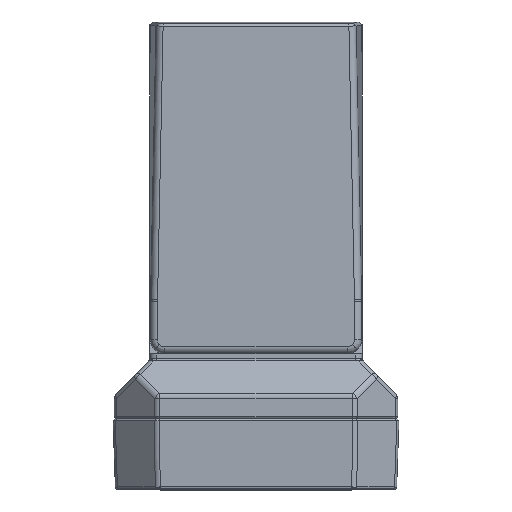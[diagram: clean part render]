
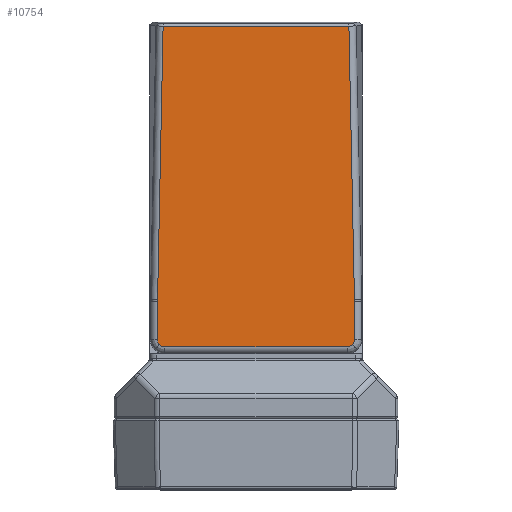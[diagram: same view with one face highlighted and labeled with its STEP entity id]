
A CAD part, top view. The second image highlights one B-rep face of the part: STEP entity #10754.
In plain terms, the highlighted planar face has unit normal (0, 0, 1) as drawn and (0, 1, 0) by its records, which use the part's own axes.
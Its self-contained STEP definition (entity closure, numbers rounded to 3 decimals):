
#44 =( BOUNDED_CURVE ( )  B_SPLINE_CURVE ( 3, ( #14184, #13300, #11010, #2235 ),
 .UNSPECIFIED., .F., .T. ) 
 B_SPLINE_CURVE_WITH_KNOTS ( ( 4, 4 ),
 ( 5.497, 6.283 ),
 .UNSPECIFIED. ) 
 CURVE ( )  GEOMETRIC_REPRESENTATION_ITEM ( )  RATIONAL_B_SPLINE_CURVE ( ( 1., 0.949, 0.949, 1. ) ) 
 REPRESENTATION_ITEM ( '' )  );
#147 = CARTESIAN_POINT ( 'NONE',  ( 34.064, 37.5, 4.055 ) ) ;
#291 = ORIENTED_EDGE ( 'NONE', *, *, #1901, .T. ) ;
#442 = CARTESIAN_POINT ( 'NONE',  ( 37.5, 37.5, -108.47 ) ) ;
#448 = DIRECTION ( 'NONE',  ( 0., -1., 0. ) ) ;
#580 =( BOUNDED_CURVE ( )  B_SPLINE_CURVE ( 3, ( #4434, #13118, #8919, #8848 ),
 .UNSPECIFIED., .F., .T. ) 
 B_SPLINE_CURVE_WITH_KNOTS ( ( 4, 4 ),
 ( 3.133, 3.151 ),
 .UNSPECIFIED. ) 
 CURVE ( )  GEOMETRIC_REPRESENTATION_ITEM ( )  RATIONAL_B_SPLINE_CURVE ( ( 1., 1., 1., 1. ) ) 
 REPRESENTATION_ITEM ( '' )  );
#583 = PLANE ( 'NONE',  #9418 ) ;
#681 = EDGE_LOOP ( 'NONE', ( #10198, #291, #14140, #8324, #2260, #13005, #1005, #4489, #10294, #9167, #11570, #2533 ) ) ;
#706 = VERTEX_POINT ( 'NONE', #12823 ) ;
#1005 = ORIENTED_EDGE ( 'NONE', *, *, #7419, .T. ) ;
#1342 = CARTESIAN_POINT ( 'NONE',  ( 37.5, 37.5, 4.789 ) ) ;
#1595 = CARTESIAN_POINT ( 'NONE',  ( -32.968, 37.5, 4.789 ) ) ;
#1663 = LINE ( 'NONE', #13937, #12121 ) ;
#1888 = VERTEX_POINT ( 'NONE', #7959 ) ;
#1901 = EDGE_CURVE ( 'NONE', #12460, #12274, #4705, .T. ) ;
#1916 = DIRECTION ( 'NONE',  ( -0.02, 0., -1. ) ) ;
#2191 = CARTESIAN_POINT ( 'NONE',  ( -34.064, 37.5, 4.055 ) ) ;
#2235 = CARTESIAN_POINT ( 'NONE',  ( -34.064, 37.5, 4.055 ) ) ;
#2260 = ORIENTED_EDGE ( 'NONE', *, *, #4986, .T. ) ;
#2449 = CARTESIAN_POINT ( 'NONE',  ( 34.795, 37.5, 2.958 ) ) ;
#2533 = ORIENTED_EDGE ( 'NONE', *, *, #5832, .T. ) ;
#2808 = VERTEX_POINT ( 'NONE', #4589 ) ;
#2846 = DIRECTION ( 'NONE',  ( -0.002, 0., -1. ) ) ;
#2898 = VERTEX_POINT ( 'NONE', #2191 ) ;
#3163 = CARTESIAN_POINT ( 'NONE',  ( 32.785, 37.5, -109.434 ) ) ;
#3261 = CARTESIAN_POINT ( 'NONE',  ( 32.295, 37.5, 4.789 ) ) ;
#3307 = CARTESIAN_POINT ( 'NONE',  ( -34.805, 37.5, 7.342 ) ) ;
#3471 = CARTESIAN_POINT ( 'NONE',  ( -34.755, 37.5, -12.016 ) ) ;
#3767 = DIRECTION ( 'NONE',  ( 0., 0., -1. ) ) ;
#3848 = VECTOR ( 'NONE', #13594, 1000. ) ;
#4326 = DIRECTION ( 'NONE',  ( -0.002, 0., 1. ) ) ;
#4434 = CARTESIAN_POINT ( 'NONE',  ( 34.765, 37.5, -11.16 ) ) ;
#4489 = ORIENTED_EDGE ( 'NONE', *, *, #5618, .T. ) ;
#4589 = CARTESIAN_POINT ( 'NONE',  ( 32.295, 37.5, 4.789 ) ) ;
#4700 = CARTESIAN_POINT ( 'NONE',  ( -32.295, 37.5, 4.789 ) ) ;
#4705 = LINE ( 'NONE', #442, #3848 ) ;
#4903 = VECTOR ( 'NONE', #9148, 1000. ) ;
#4986 = EDGE_CURVE ( 'NONE', #5562, #1888, #10036, .T. ) ;
#5030 = CARTESIAN_POINT ( 'NONE',  ( -34.764, 37.5, -11.445 ) ) ;
#5317 = EDGE_CURVE ( 'NONE', #706, #12460, #14146, .T. ) ;
#5430 = CARTESIAN_POINT ( 'NONE',  ( -32.805, 37.5, -108.47 ) ) ;
#5562 = VERTEX_POINT ( 'NONE', #12541 ) ;
#5618 = EDGE_CURVE ( 'NONE', #7461, #2808, #9359, .T. ) ;
#5824 = LINE ( 'NONE', #11461, #7148 ) ;
#5832 = EDGE_CURVE ( 'NONE', #6474, #706, #580, .T. ) ;
#5862 = CARTESIAN_POINT ( 'NONE',  ( 34.794, 37.5, 2.285 ) ) ;
#6372 = EDGE_CURVE ( 'NONE', #12274, #7389, #1663, .T. ) ;
#6474 = VERTEX_POINT ( 'NONE', #9400 ) ;
#6783 = CARTESIAN_POINT ( 'NONE',  ( 34.064, 37.5, 4.055 ) ) ;
#7148 = VECTOR ( 'NONE', #2846, 1000. ) ;
#7181 = CARTESIAN_POINT ( 'NONE',  ( -34.755, 37.5, -12.016 ) ) ;
#7389 = VERTEX_POINT ( 'NONE', #3471 ) ;
#7419 = EDGE_CURVE ( 'NONE', #2898, #7461, #8152, .T. ) ;
#7461 = VERTEX_POINT ( 'NONE', #8250 ) ;
#7600 = VECTOR ( 'NONE', #4326, 1000. ) ;
#7728 = CARTESIAN_POINT ( 'NONE',  ( 32.968, 37.5, 4.789 ) ) ;
#7902 = EDGE_CURVE ( 'NONE', #9351, #8942, #12495, .T. ) ;
#7959 = CARTESIAN_POINT ( 'NONE',  ( -34.794, 37.5, 2.285 ) ) ;
#8037 = CARTESIAN_POINT ( 'NONE',  ( -34.064, 37.5, 4.055 ) ) ;
#8152 =( BOUNDED_CURVE ( )  B_SPLINE_CURVE ( 3, ( #8037, #9192, #1595, #4700 ),
 .UNSPECIFIED., .F., .T. ) 
 B_SPLINE_CURVE_WITH_KNOTS ( ( 4, 4 ),
 ( 0., 0.786 ),
 .UNSPECIFIED. ) 
 CURVE ( )  GEOMETRIC_REPRESENTATION_ITEM ( )  RATIONAL_B_SPLINE_CURVE ( ( 1., 0.949, 0.949, 1. ) ) 
 REPRESENTATION_ITEM ( '' )  );
#8245 = DIRECTION ( 'NONE',  ( -0.02, 0., 1. ) ) ;
#8250 = CARTESIAN_POINT ( 'NONE',  ( -32.295, 37.5, 4.789 ) ) ;
#8324 = ORIENTED_EDGE ( 'NONE', *, *, #13488, .T. ) ;
#8848 = CARTESIAN_POINT ( 'NONE',  ( 34.755, 37.5, -12.016 ) ) ;
#8907 = CARTESIAN_POINT ( 'NONE',  ( 34.794, 37.5, 2.285 ) ) ;
#8919 = CARTESIAN_POINT ( 'NONE',  ( 34.761, 37.5, -11.73 ) ) ;
#8942 = VERTEX_POINT ( 'NONE', #8907 ) ;
#9148 = DIRECTION ( 'NONE',  ( 1., 0., 0. ) ) ;
#9167 = ORIENTED_EDGE ( 'NONE', *, *, #7902, .T. ) ;
#9192 = CARTESIAN_POINT ( 'NONE',  ( -33.589, 37.5, 4.531 ) ) ;
#9351 = VERTEX_POINT ( 'NONE', #11417 ) ;
#9359 = LINE ( 'NONE', #1342, #4903 ) ;
#9400 = CARTESIAN_POINT ( 'NONE',  ( 34.765, 37.5, -11.16 ) ) ;
#9418 = AXIS2_PLACEMENT_3D ( 'NONE', #10437, #448, #3767 ) ;
#9437 = CARTESIAN_POINT ( 'NONE',  ( -34.765, 37.5, -11.16 ) ) ;
#10036 = LINE ( 'NONE', #3307, #7600 ) ;
#10198 = ORIENTED_EDGE ( 'NONE', *, *, #5317, .T. ) ;
#10294 = ORIENTED_EDGE ( 'NONE', *, *, #13246, .T. ) ;
#10437 = CARTESIAN_POINT ( 'NONE',  ( 37.5, 37.5, 7.5 ) ) ;
#10520 = CARTESIAN_POINT ( 'NONE',  ( -34.761, 37.5, -11.73 ) ) ;
#10754 = ADVANCED_FACE ( 'NONE', ( #11442 ), #583, .F. ) ;
#10763 = CARTESIAN_POINT ( 'NONE',  ( 32.805, 37.5, -108.47 ) ) ;
#10917 = EDGE_CURVE ( 'NONE', #1888, #2898, #44, .T. ) ;
#11010 = CARTESIAN_POINT ( 'NONE',  ( -34.539, 37.5, 3.579 ) ) ;
#11403 =( BOUNDED_CURVE ( )  B_SPLINE_CURVE ( 3, ( #3261, #7728, #13294, #6783 ),
 .UNSPECIFIED., .F., .T. ) 
 B_SPLINE_CURVE_WITH_KNOTS ( ( 4, 4 ),
 ( 5.497, 6.283 ),
 .UNSPECIFIED. ) 
 CURVE ( )  GEOMETRIC_REPRESENTATION_ITEM ( )  RATIONAL_B_SPLINE_CURVE ( ( 1., 0.949, 0.949, 1. ) ) 
 REPRESENTATION_ITEM ( '' )  );
#11417 = CARTESIAN_POINT ( 'NONE',  ( 34.064, 37.5, 4.055 ) ) ;
#11442 = FACE_OUTER_BOUND ( 'NONE', #681, .T. ) ;
#11461 = CARTESIAN_POINT ( 'NONE',  ( 34.765, 37.5, -11.159 ) ) ;
#11570 = ORIENTED_EDGE ( 'NONE', *, *, #13407, .T. ) ;
#11894 =( BOUNDED_CURVE ( )  B_SPLINE_CURVE ( 3, ( #7181, #10520, #5030, #9437 ),
 .UNSPECIFIED., .F., .T. ) 
 B_SPLINE_CURVE_WITH_KNOTS ( ( 4, 4 ),
 ( 3.133, 3.151 ),
 .UNSPECIFIED. ) 
 CURVE ( )  GEOMETRIC_REPRESENTATION_ITEM ( )  RATIONAL_B_SPLINE_CURVE ( ( 1., 1., 1., 1. ) ) 
 REPRESENTATION_ITEM ( '' )  );
#12121 = VECTOR ( 'NONE', #8245, 1000. ) ;
#12274 = VERTEX_POINT ( 'NONE', #5430 ) ;
#12292 = CARTESIAN_POINT ( 'NONE',  ( 34.539, 37.5, 3.579 ) ) ;
#12460 = VERTEX_POINT ( 'NONE', #10763 ) ;
#12495 =( BOUNDED_CURVE ( )  B_SPLINE_CURVE ( 3, ( #147, #12292, #2449, #5862 ),
 .UNSPECIFIED., .F., .T. ) 
 B_SPLINE_CURVE_WITH_KNOTS ( ( 4, 4 ),
 ( 0., 0.786 ),
 .UNSPECIFIED. ) 
 CURVE ( )  GEOMETRIC_REPRESENTATION_ITEM ( )  RATIONAL_B_SPLINE_CURVE ( ( 1., 0.949, 0.949, 1. ) ) 
 REPRESENTATION_ITEM ( '' )  );
#12541 = CARTESIAN_POINT ( 'NONE',  ( -34.765, 37.5, -11.16 ) ) ;
#12823 = CARTESIAN_POINT ( 'NONE',  ( 34.755, 37.5, -12.016 ) ) ;
#13005 = ORIENTED_EDGE ( 'NONE', *, *, #10917, .T. ) ;
#13118 = CARTESIAN_POINT ( 'NONE',  ( 34.764, 37.5, -11.445 ) ) ;
#13246 = EDGE_CURVE ( 'NONE', #2808, #9351, #11403, .T. ) ;
#13294 = CARTESIAN_POINT ( 'NONE',  ( 33.589, 37.5, 4.531 ) ) ;
#13300 = CARTESIAN_POINT ( 'NONE',  ( -34.795, 37.5, 2.958 ) ) ;
#13407 = EDGE_CURVE ( 'NONE', #8942, #6474, #5824, .T. ) ;
#13488 = EDGE_CURVE ( 'NONE', #7389, #5562, #11894, .T. ) ;
#13594 = DIRECTION ( 'NONE',  ( -1., 0., 0. ) ) ;
#13870 = VECTOR ( 'NONE', #1916, 1000. ) ;
#13937 = CARTESIAN_POINT ( 'NONE',  ( -35.12, 37.5, 6.032 ) ) ;
#14140 = ORIENTED_EDGE ( 'NONE', *, *, #6372, .T. ) ;
#14146 = LINE ( 'NONE', #3163, #13870 ) ;
#14184 = CARTESIAN_POINT ( 'NONE',  ( -34.794, 37.5, 2.285 ) ) ;
